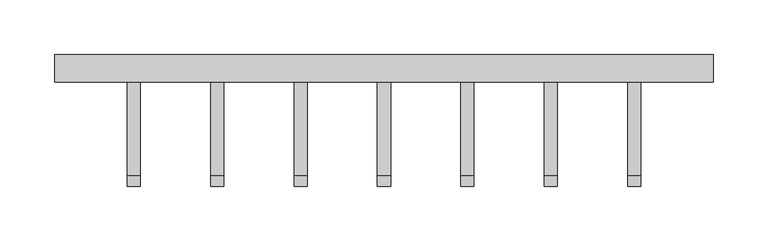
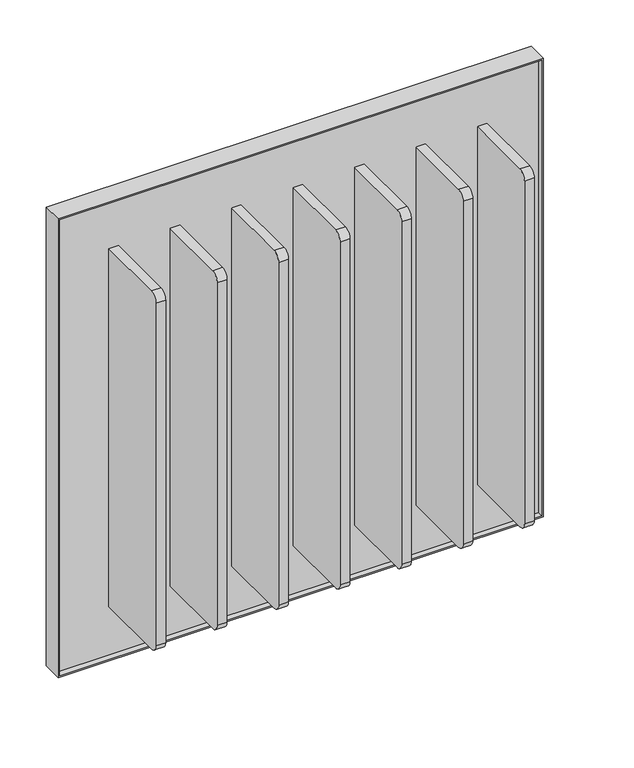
"""IFC4 building model written with IfcOpenShell, lengths in millimetres: proxy geometry, Frame_Cascade 12.3dm."""

from ifc_helpers import new_model, si_unit, point, frame, frame_2d, origin, place, context, project, spatial, polyline, circle_curve, trimmed, segment, composite_curve, outline, extrude, source, transform, mapped, element, save


def generic_models_ba6735c8(model_context):
    return source(origin(), model_context, "Body", "SweptSolid", [
        extrude(outline(polyline([(3173.6754182, 602.7120786), (3777.6754182, 602.7120786), (3777.6754182, -1.2879214), (3173.6754182, -1.2879214), (3173.6754182, 602.7120786)]), holes=[polyline([(3175.6754182, 600.7120786), (3175.6754182, 0.7120786), (3775.6754182, 0.7120786), (3775.6754182, 600.7120786), (3175.6754182, 600.7120786)])]), frame((0.0, 107.5568681, 0.0), z_axis=(0.0, 1.0, 0.0), x_axis=(0.0, 0.0, 1.0)), (0.0, 0.0, 1.0), 25.4),
        extrude(outline(polyline([(0.7120786, 126.2568681), (600.7120786, 126.2568681), (600.7120786, 114.2568681), (0.7120786, 114.2568681), (0.7120786, 126.2568681)])), frame((0.0, 0.0, 3175.6754182), z_axis=(0.0, 0.0, 1.0), x_axis=(1.0, 0.0, 0.0)), (0.0, 0.0, 1.0), 600.0),
        extrude(outline(composite_curve([segment(polyline([(21.9568681, 3711.1754182), (114.2568681, 3711.1754182), (114.2568681, 3240.1754182), (21.9568681, 3240.1754182)]), True, "CONTINUOUS"), segment(trimmed(circle_curve(frame_2d((21.9568681, 3250.1754182)), 10.0), [point((21.9568681, 3240.1754182))], [point((11.9568681, 3250.1754182))], False, "CARTESIAN"), True, "CONTINUOUS"), segment(polyline([(11.9568681, 3250.1754182), (11.9568681, 3701.1754182)]), True, "CONTINUOUS"), segment(trimmed(circle_curve(frame_2d((21.9568681, 3701.1754182)), 10.0), [point((11.9568681, 3701.1754182))], [point((21.9568681, 3711.1754182))], False, "CARTESIAN"), True, "CONTINUOUS")], self_intersect=False)), frame((447.7120786, 0.0, 0.0), z_axis=(1.0, 0.0, 0.0), x_axis=(0.0, 1.0, 0.0)), (0.0, 0.0, 1.0), 12.0),
        extrude(outline(composite_curve([segment(polyline([(21.9568681, 3711.1754182), (114.2568681, 3711.1754182), (114.2568681, 3240.1754182), (21.9568681, 3240.1754182)]), True, "CONTINUOUS"), segment(trimmed(circle_curve(frame_2d((21.9568681, 3250.1754182)), 10.0), [point((21.9568681, 3240.1754182))], [point((11.9568681, 3250.1754182))], False, "CARTESIAN"), True, "CONTINUOUS"), segment(polyline([(11.9568681, 3250.1754182), (11.9568681, 3701.1754182)]), True, "CONTINUOUS"), segment(trimmed(circle_curve(frame_2d((21.9568681, 3701.1754182)), 10.0), [point((11.9568681, 3701.1754182))], [point((21.9568681, 3711.1754182))], False, "CARTESIAN"), True, "CONTINUOUS")], self_intersect=False)), frame((218.2120786, 0.0, 0.0), z_axis=(1.0, 0.0, 0.0), x_axis=(0.0, 1.0, 0.0)), (0.0, 0.0, 1.0), 12.0),
        extrude(outline(composite_curve([segment(polyline([(21.9568681, 3711.1754182), (114.2568681, 3711.1754182), (114.2568681, 3240.1754182), (21.9568681, 3240.1754182)]), True, "CONTINUOUS"), segment(trimmed(circle_curve(frame_2d((21.9568681, 3250.1754182)), 10.0), [point((21.9568681, 3240.1754182))], [point((11.9568681, 3250.1754182))], False, "CARTESIAN"), True, "CONTINUOUS"), segment(polyline([(11.9568681, 3250.1754182), (11.9568681, 3701.1754182)]), True, "CONTINUOUS"), segment(trimmed(circle_curve(frame_2d((21.9568681, 3701.1754182)), 10.0), [point((11.9568681, 3701.1754182))], [point((21.9568681, 3711.1754182))], False, "CARTESIAN"), True, "CONTINUOUS")], self_intersect=False)), frame((371.2120786, 0.0, 0.0), z_axis=(1.0, 0.0, 0.0), x_axis=(0.0, 1.0, 0.0)), (0.0, 0.0, 1.0), 12.0),
        extrude(outline(composite_curve([segment(polyline([(21.9568681, 3711.1754182), (114.2568681, 3711.1754182), (114.2568681, 3240.1754182), (21.9568681, 3240.1754182)]), True, "CONTINUOUS"), segment(trimmed(circle_curve(frame_2d((21.9568681, 3250.1754182)), 10.0), [point((21.9568681, 3240.1754182))], [point((11.9568681, 3250.1754182))], False, "CARTESIAN"), True, "CONTINUOUS"), segment(polyline([(11.9568681, 3250.1754182), (11.9568681, 3701.1754182)]), True, "CONTINUOUS"), segment(trimmed(circle_curve(frame_2d((21.9568681, 3701.1754182)), 10.0), [point((11.9568681, 3701.1754182))], [point((21.9568681, 3711.1754182))], False, "CARTESIAN"), True, "CONTINUOUS")], self_intersect=False)), frame((294.7120786, 0.0, 0.0), z_axis=(1.0, 0.0, 0.0), x_axis=(0.0, 1.0, 0.0)), (0.0, 0.0, 1.0), 12.0),
        extrude(outline(composite_curve([segment(polyline([(21.9568681, 3711.1754182), (114.2568681, 3711.1754182), (114.2568681, 3240.1754182), (21.9568681, 3240.1754182)]), True, "CONTINUOUS"), segment(trimmed(circle_curve(frame_2d((21.9568681, 3250.1754182)), 10.0), [point((21.9568681, 3240.1754182))], [point((11.9568681, 3250.1754182))], False, "CARTESIAN"), True, "CONTINUOUS"), segment(polyline([(11.9568681, 3250.1754182), (11.9568681, 3701.1754182)]), True, "CONTINUOUS"), segment(trimmed(circle_curve(frame_2d((21.9568681, 3701.1754182)), 10.0), [point((11.9568681, 3701.1754182))], [point((21.9568681, 3711.1754182))], False, "CARTESIAN"), True, "CONTINUOUS")], self_intersect=False)), frame((524.2120786, 0.0, 0.0), z_axis=(1.0, 0.0, 0.0), x_axis=(0.0, 1.0, 0.0)), (0.0, 0.0, 1.0), 12.0),
        extrude(outline(composite_curve([segment(polyline([(21.9568681, 3711.1754182), (114.2568681, 3711.1754182), (114.2568681, 3240.1754182), (21.9568681, 3240.1754182)]), True, "CONTINUOUS"), segment(trimmed(circle_curve(frame_2d((21.9568681, 3250.1754182)), 10.0), [point((21.9568681, 3240.1754182))], [point((11.9568681, 3250.1754182))], False, "CARTESIAN"), True, "CONTINUOUS"), segment(polyline([(11.9568681, 3250.1754182), (11.9568681, 3701.1754182)]), True, "CONTINUOUS"), segment(trimmed(circle_curve(frame_2d((21.9568681, 3701.1754182)), 10.0), [point((11.9568681, 3701.1754182))], [point((21.9568681, 3711.1754182))], False, "CARTESIAN"), True, "CONTINUOUS")], self_intersect=False)), frame((65.2120786, 0.0, 0.0), z_axis=(1.0, 0.0, 0.0), x_axis=(0.0, 1.0, 0.0)), (0.0, 0.0, 1.0), 12.0),
        extrude(outline(composite_curve([segment(polyline([(21.9568681, 3711.1754182), (114.2568681, 3711.1754182), (114.2568681, 3240.1754182), (21.9568681, 3240.1754182)]), True, "CONTINUOUS"), segment(trimmed(circle_curve(frame_2d((21.9568681, 3250.1754182)), 10.0), [point((21.9568681, 3240.1754182))], [point((11.9568681, 3250.1754182))], False, "CARTESIAN"), True, "CONTINUOUS"), segment(polyline([(11.9568681, 3250.1754182), (11.9568681, 3701.1754182)]), True, "CONTINUOUS"), segment(trimmed(circle_curve(frame_2d((21.9568681, 3701.1754182)), 10.0), [point((11.9568681, 3701.1754182))], [point((21.9568681, 3711.1754182))], False, "CARTESIAN"), True, "CONTINUOUS")], self_intersect=False)), frame((141.7120786, 0.0, 0.0), z_axis=(1.0, 0.0, 0.0), x_axis=(0.0, 1.0, 0.0)), (0.0, 0.0, 1.0), 12.0),
    ])


if __name__ == "__main__":
    model = new_model("IFC4")
    model_context = context("Model", 3, world=origin())
    ifc_project = project(units=[si_unit("LENGTHUNIT", "METRE", prefix="MILLI")], contexts=[model_context])
    site = spatial("IfcSite", under=ifc_project)
    building = spatial("IfcBuilding", under=site)
    placement = place(None, origin())
    generic_models_shape = generic_models_ba6735c8(model_context)
    element("IfcBuildingElementProxy", 1, Name="Frame_Cascade 12.3dm", ObjectType="Frame_Cascade 12.3dm", at=placement, inside=building, context=model_context, shape_type="MappedRepresentation", body=[
        mapped(generic_models_shape, transform((0.0, 0.0, 0.0), x_axis=(1.0, 0.0, 0.0), y_axis=(0.0, 1.0, 0.0), z_axis=(0.0, 0.0, 1.0))),
    ])
    save(model, "model.ifc")
